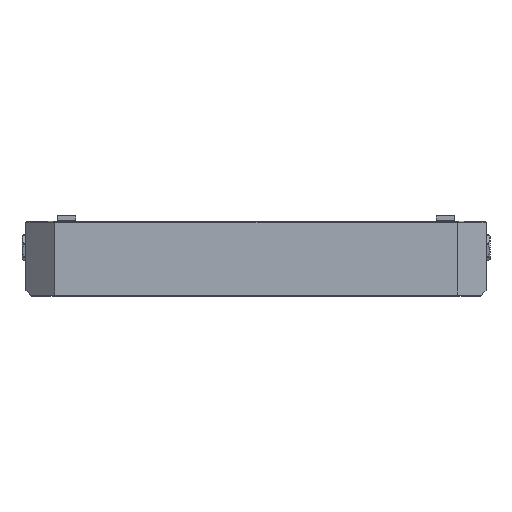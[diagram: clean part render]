
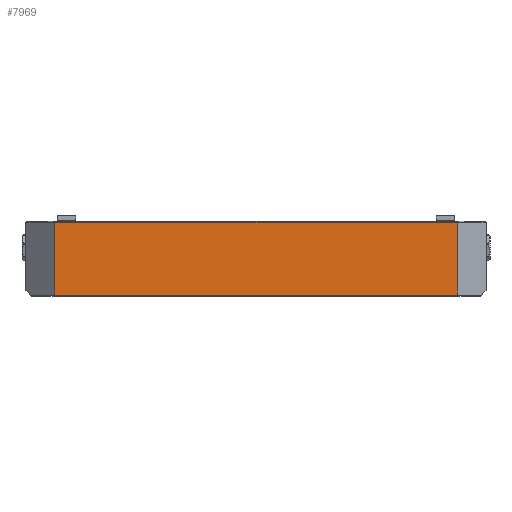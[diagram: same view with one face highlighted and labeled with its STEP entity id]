
A CAD part, top view. The second image highlights one B-rep face of the part: STEP entity #7969.
In plain terms, the highlighted planar face has unit normal (0, 0, 1).
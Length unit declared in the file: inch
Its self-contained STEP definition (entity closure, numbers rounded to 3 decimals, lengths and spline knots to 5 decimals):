
#74 = CARTESIAN_POINT ( 'NONE',  ( -4.375, 1.63, 2.475 ) ) ;
#414 = ORIENTED_EDGE ( 'NONE', *, *, #12956, .T. ) ;
#882 = FACE_OUTER_BOUND ( 'NONE', #4219, .T. ) ;
#1577 = LINE ( 'NONE', #15214, #11955 ) ;
#2253 = CARTESIAN_POINT ( 'NONE',  ( 4.375, 0.045, 2.475 ) ) ;
#2843 = VERTEX_POINT ( 'NONE', #2253 ) ;
#4011 = EDGE_CURVE ( 'NONE', #5487, #2843, #12338, .T. ) ;
#4033 = ORIENTED_EDGE ( 'NONE', *, *, #15998, .T. ) ;
#4181 = VECTOR ( 'NONE', #10318, 39.37008 ) ;
#4219 = EDGE_LOOP ( 'NONE', ( #13705, #414, #4033, #4874 ) ) ;
#4664 = DIRECTION ( 'NONE',  ( -1., 0., 0. ) ) ;
#4874 = ORIENTED_EDGE ( 'NONE', *, *, #4011, .T. ) ;
#4956 = VECTOR ( 'NONE', #13979, 39.37008 ) ;
#5487 = VERTEX_POINT ( 'NONE', #7920 ) ;
#6009 = DIRECTION ( 'NONE',  ( 0., 0., -1. ) ) ;
#6056 = LINE ( 'NONE', #15040, #14286 ) ;
#6066 = EDGE_CURVE ( 'NONE', #2843, #7146, #8064, .T. ) ;
#7146 = VERTEX_POINT ( 'NONE', #7647 ) ;
#7647 = CARTESIAN_POINT ( 'NONE',  ( 4.375, 1.63, 2.475 ) ) ;
#7676 = CARTESIAN_POINT ( 'NONE',  ( 4.375, 0.045, 2.475 ) ) ;
#7920 = CARTESIAN_POINT ( 'NONE',  ( -4.375, 0.045, 2.475 ) ) ;
#7969 = ADVANCED_FACE ( 'NONE', ( #882 ), #9944, .F. ) ;
#8064 = LINE ( 'NONE', #13138, #4181 ) ;
#8459 = VERTEX_POINT ( 'NONE', #74 ) ;
#8687 = CARTESIAN_POINT ( 'NONE',  ( -5., 1.675, 2.475 ) ) ;
#9826 = DIRECTION ( 'NONE',  ( -1., 0., 0. ) ) ;
#9944 = PLANE ( 'NONE',  #11396 ) ;
#10318 = DIRECTION ( 'NONE',  ( 0., 1., 0. ) ) ;
#11396 = AXIS2_PLACEMENT_3D ( 'NONE', #8687, #6009, #4664 ) ;
#11955 = VECTOR ( 'NONE', #13969, 39.37008 ) ;
#12338 = LINE ( 'NONE', #7676, #4956 ) ;
#12956 = EDGE_CURVE ( 'NONE', #7146, #8459, #6056, .T. ) ;
#13138 = CARTESIAN_POINT ( 'NONE',  ( 4.375, 1.675, 2.475 ) ) ;
#13705 = ORIENTED_EDGE ( 'NONE', *, *, #6066, .T. ) ;
#13969 = DIRECTION ( 'NONE',  ( 0., -1., 0. ) ) ;
#13979 = DIRECTION ( 'NONE',  ( 1., 0., 0. ) ) ;
#14286 = VECTOR ( 'NONE', #9826, 39.37008 ) ;
#15040 = CARTESIAN_POINT ( 'NONE',  ( -5., 1.63, 2.475 ) ) ;
#15214 = CARTESIAN_POINT ( 'NONE',  ( -4.375, 1.675, 2.475 ) ) ;
#15998 = EDGE_CURVE ( 'NONE', #8459, #5487, #1577, .T. ) ;
